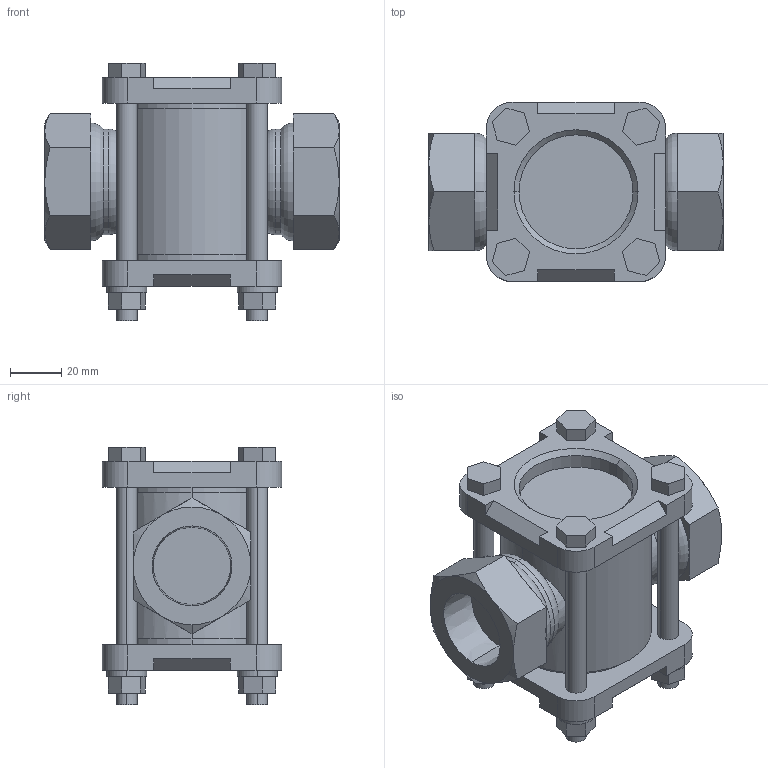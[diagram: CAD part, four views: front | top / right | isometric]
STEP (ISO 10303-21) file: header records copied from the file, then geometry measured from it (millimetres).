
FILE_DESCRIPTION (( 'STEP AP203' ), '1' );
FILE_NAME ('SF-1S 25A.STEP', '2024-09-05T05:01:16', ( '' ), ( '' ), 'SwSTEP 2.0', 'SolidWorks 2024', '' );
FILE_SCHEMA (( 'CONFIG_CONTROL_DESIGN' ));
Length unit declared in the file: millimetre
Products named in the file (1): SF-1S 25A
Bounding box: 115 x 70 x 100.5 mm (x, y, z)
Volume: 334152.7 mm3; surface area: 56129.6 mm2
Topology: 1 solids, 1 shells, 212 faces, 516 edges, 330 vertices
Faces by surface type: plane 132, cylinder 50, cone 22, torus 8
Entity records: 6603 total; most frequent: CARTESIAN_POINT 1471, DIRECTION 1052, ORIENTED_EDGE 1032, EDGE_CURVE 516, AXIS2_PLACEMENT_3D 359, LINE 334, VECTOR 334, VERTEX_POINT 330
